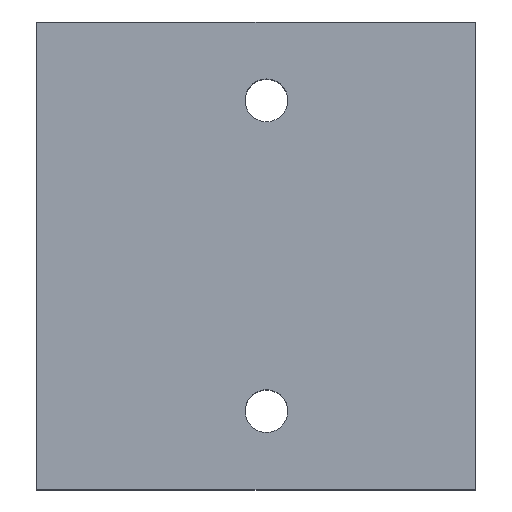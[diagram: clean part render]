
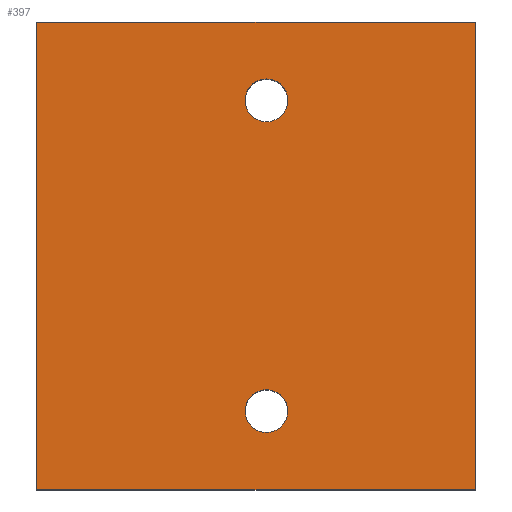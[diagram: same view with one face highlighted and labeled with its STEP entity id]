
A CAD part, top view. The second image highlights one B-rep face of the part: STEP entity #397.
In plain terms, the highlighted planar face has unit normal (0, 0, 1).
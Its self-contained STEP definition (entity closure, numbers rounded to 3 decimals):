
#21 = EDGE_CURVE('',#22,#24,#26,.T.);
#22 = VERTEX_POINT('',#23);
#23 = CARTESIAN_POINT('',(75.,-55.375,13.5));
#24 = VERTEX_POINT('',#25);
#25 = CARTESIAN_POINT('',(75.,-10.625,13.5));
#26 = SURFACE_CURVE('',#27,(#31,#43),.PCURVE_S1.);
#27 = LINE('',#28,#29);
#28 = CARTESIAN_POINT('',(75.,-55.375,13.5));
#29 = VECTOR('',#30,1.);
#30 = DIRECTION('',(0.,1.,0.));
#31 = PCURVE('',#32,#37);
#32 = PLANE('',#33);
#33 = AXIS2_PLACEMENT_3D('',#34,#35,#36);
#34 = CARTESIAN_POINT('',(75.,-55.375,-13.5));
#35 = DIRECTION('',(1.,0.,0.));
#36 = DIRECTION('',(0.,0.,1.));
#37 = DEFINITIONAL_REPRESENTATION('',(#38),#42);
#38 = LINE('',#39,#40);
#39 = CARTESIAN_POINT('',(27.,0.));
#40 = VECTOR('',#41,1.);
#41 = DIRECTION('',(0.,-1.));
#42 = ( GEOMETRIC_REPRESENTATION_CONTEXT(2) 
PARAMETRIC_REPRESENTATION_CONTEXT() REPRESENTATION_CONTEXT('2D SPACE',''
  ) );
#43 = PCURVE('',#44,#49);
#44 = PLANE('',#45);
#45 = AXIS2_PLACEMENT_3D('',#46,#47,#48);
#46 = CARTESIAN_POINT('',(75.,-55.375,13.5));
#47 = DIRECTION('',(0.,0.,1.));
#48 = DIRECTION('',(1.,0.,0.));
#49 = DEFINITIONAL_REPRESENTATION('',(#50),#54);
#50 = LINE('',#51,#52);
#51 = CARTESIAN_POINT('',(0.,0.));
#52 = VECTOR('',#53,1.);
#53 = DIRECTION('',(0.,1.));
#54 = ( GEOMETRIC_REPRESENTATION_CONTEXT(2) 
PARAMETRIC_REPRESENTATION_CONTEXT() REPRESENTATION_CONTEXT('2D SPACE',''
  ) );
#72 = PLANE('',#73);
#73 = AXIS2_PLACEMENT_3D('',#74,#75,#76);
#74 = CARTESIAN_POINT('',(75.,-55.375,-13.5));
#75 = DIRECTION('',(0.,1.,0.));
#76 = DIRECTION('',(0.,0.,1.));
#126 = PLANE('',#127);
#127 = AXIS2_PLACEMENT_3D('',#128,#129,#130);
#128 = CARTESIAN_POINT('',(75.,-10.625,9.6));
#129 = DIRECTION('',(0.,1.,0.));
#130 = DIRECTION('',(0.,0.,1.));
#397 = ADVANCED_FACE('',(#398,#473,#508),#44,.T.);
#398 = FACE_BOUND('',#399,.T.);
#399 = EDGE_LOOP('',(#400,#401,#424,#452));
#400 = ORIENTED_EDGE('',*,*,#21,.F.);
#401 = ORIENTED_EDGE('',*,*,#402,.T.);
#402 = EDGE_CURVE('',#22,#403,#405,.T.);
#403 = VERTEX_POINT('',#404);
#404 = CARTESIAN_POINT('',(117.,-55.375,13.5));
#405 = SURFACE_CURVE('',#406,(#410,#417),.PCURVE_S1.);
#406 = LINE('',#407,#408);
#407 = CARTESIAN_POINT('',(75.,-55.375,13.5));
#408 = VECTOR('',#409,1.);
#409 = DIRECTION('',(1.,0.,0.));
#410 = PCURVE('',#44,#411);
#411 = DEFINITIONAL_REPRESENTATION('',(#412),#416);
#412 = LINE('',#413,#414);
#413 = CARTESIAN_POINT('',(0.,0.));
#414 = VECTOR('',#415,1.);
#415 = DIRECTION('',(1.,0.));
#416 = ( GEOMETRIC_REPRESENTATION_CONTEXT(2) 
PARAMETRIC_REPRESENTATION_CONTEXT() REPRESENTATION_CONTEXT('2D SPACE',''
  ) );
#417 = PCURVE('',#72,#418);
#418 = DEFINITIONAL_REPRESENTATION('',(#419),#423);
#419 = LINE('',#420,#421);
#420 = CARTESIAN_POINT('',(27.,0.));
#421 = VECTOR('',#422,1.);
#422 = DIRECTION('',(0.,1.));
#423 = ( GEOMETRIC_REPRESENTATION_CONTEXT(2) 
PARAMETRIC_REPRESENTATION_CONTEXT() REPRESENTATION_CONTEXT('2D SPACE',''
  ) );
#424 = ORIENTED_EDGE('',*,*,#425,.T.);
#425 = EDGE_CURVE('',#403,#426,#428,.T.);
#426 = VERTEX_POINT('',#427);
#427 = CARTESIAN_POINT('',(117.,-10.625,13.5));
#428 = SURFACE_CURVE('',#429,(#433,#440),.PCURVE_S1.);
#429 = LINE('',#430,#431);
#430 = CARTESIAN_POINT('',(117.,-55.375,13.5));
#431 = VECTOR('',#432,1.);
#432 = DIRECTION('',(0.,1.,0.));
#433 = PCURVE('',#44,#434);
#434 = DEFINITIONAL_REPRESENTATION('',(#435),#439);
#435 = LINE('',#436,#437);
#436 = CARTESIAN_POINT('',(42.,0.));
#437 = VECTOR('',#438,1.);
#438 = DIRECTION('',(0.,1.));
#439 = ( GEOMETRIC_REPRESENTATION_CONTEXT(2) 
PARAMETRIC_REPRESENTATION_CONTEXT() REPRESENTATION_CONTEXT('2D SPACE',''
  ) );
#440 = PCURVE('',#441,#446);
#441 = PLANE('',#442);
#442 = AXIS2_PLACEMENT_3D('',#443,#444,#445);
#443 = CARTESIAN_POINT('',(117.,-55.375,9.6));
#444 = DIRECTION('',(1.,0.,0.));
#445 = DIRECTION('',(0.,0.,1.));
#446 = DEFINITIONAL_REPRESENTATION('',(#447),#451);
#447 = LINE('',#448,#449);
#448 = CARTESIAN_POINT('',(3.9,0.));
#449 = VECTOR('',#450,1.);
#450 = DIRECTION('',(0.,-1.));
#451 = ( GEOMETRIC_REPRESENTATION_CONTEXT(2) 
PARAMETRIC_REPRESENTATION_CONTEXT() REPRESENTATION_CONTEXT('2D SPACE',''
  ) );
#452 = ORIENTED_EDGE('',*,*,#453,.T.);
#453 = EDGE_CURVE('',#426,#24,#454,.T.);
#454 = SURFACE_CURVE('',#455,(#459,#466),.PCURVE_S1.);
#455 = LINE('',#456,#457);
#456 = CARTESIAN_POINT('',(117.,-10.625,13.5));
#457 = VECTOR('',#458,1.);
#458 = DIRECTION('',(-1.,0.,0.));
#459 = PCURVE('',#44,#460);
#460 = DEFINITIONAL_REPRESENTATION('',(#461),#465);
#461 = LINE('',#462,#463);
#462 = CARTESIAN_POINT('',(42.,44.75));
#463 = VECTOR('',#464,1.);
#464 = DIRECTION('',(-1.,0.));
#465 = ( GEOMETRIC_REPRESENTATION_CONTEXT(2) 
PARAMETRIC_REPRESENTATION_CONTEXT() REPRESENTATION_CONTEXT('2D SPACE',''
  ) );
#466 = PCURVE('',#126,#467);
#467 = DEFINITIONAL_REPRESENTATION('',(#468),#472);
#468 = LINE('',#469,#470);
#469 = CARTESIAN_POINT('',(3.9,42.));
#470 = VECTOR('',#471,1.);
#471 = DIRECTION('',(0.,-1.));
#472 = ( GEOMETRIC_REPRESENTATION_CONTEXT(2) 
PARAMETRIC_REPRESENTATION_CONTEXT() REPRESENTATION_CONTEXT('2D SPACE',''
  ) );
#473 = FACE_BOUND('',#474,.T.);
#474 = EDGE_LOOP('',(#475));
#475 = ORIENTED_EDGE('',*,*,#476,.T.);
#476 = EDGE_CURVE('',#477,#477,#479,.T.);
#477 = VERTEX_POINT('',#478);
#478 = CARTESIAN_POINT('',(97.,-45.825,13.5));
#479 = SURFACE_CURVE('',#480,(#485,#496),.PCURVE_S1.);
#480 = CIRCLE('',#481,2.05);
#481 = AXIS2_PLACEMENT_3D('',#482,#483,#484);
#482 = CARTESIAN_POINT('',(97.,-47.875,13.5));
#483 = DIRECTION('',(-0.,0.,-1.));
#484 = DIRECTION('',(0.,1.,0.));
#485 = PCURVE('',#44,#486);
#486 = DEFINITIONAL_REPRESENTATION('',(#487),#495);
#487 = ( BOUNDED_CURVE() B_SPLINE_CURVE(2,(#488,#489,#490,#491,#492,#493
,#494),.UNSPECIFIED.,.T.,.F.) B_SPLINE_CURVE_WITH_KNOTS((1,2,2,2,2,1),(
    -2.094,0.,2.094,4.189,6.283,
8.378),.UNSPECIFIED.) CURVE() GEOMETRIC_REPRESENTATION_ITEM() 
RATIONAL_B_SPLINE_CURVE((1.,0.5,1.,0.5,1.,0.5,1.)) REPRESENTATION_ITEM(
  '') );
#488 = CARTESIAN_POINT('',(22.,9.55));
#489 = CARTESIAN_POINT('',(25.551,9.55));
#490 = CARTESIAN_POINT('',(23.775,6.475));
#491 = CARTESIAN_POINT('',(22.,3.4));
#492 = CARTESIAN_POINT('',(20.225,6.475));
#493 = CARTESIAN_POINT('',(18.449,9.55));
#494 = CARTESIAN_POINT('',(22.,9.55));
#495 = ( GEOMETRIC_REPRESENTATION_CONTEXT(2) 
PARAMETRIC_REPRESENTATION_CONTEXT() REPRESENTATION_CONTEXT('2D SPACE',''
  ) );
#496 = PCURVE('',#497,#502);
#497 = CYLINDRICAL_SURFACE('',#498,2.05);
#498 = AXIS2_PLACEMENT_3D('',#499,#500,#501);
#499 = CARTESIAN_POINT('',(97.,-47.875,-15.));
#500 = DIRECTION('',(-0.,0.,-1.));
#501 = DIRECTION('',(0.,1.,0.));
#502 = DEFINITIONAL_REPRESENTATION('',(#503),#507);
#503 = LINE('',#504,#505);
#504 = CARTESIAN_POINT('',(-6.283,-28.5));
#505 = VECTOR('',#506,1.);
#506 = DIRECTION('',(1.,-0.));
#507 = ( GEOMETRIC_REPRESENTATION_CONTEXT(2) 
PARAMETRIC_REPRESENTATION_CONTEXT() REPRESENTATION_CONTEXT('2D SPACE',''
  ) );
#508 = FACE_BOUND('',#509,.T.);
#509 = EDGE_LOOP('',(#510));
#510 = ORIENTED_EDGE('',*,*,#511,.T.);
#511 = EDGE_CURVE('',#512,#512,#514,.T.);
#512 = VERTEX_POINT('',#513);
#513 = CARTESIAN_POINT('',(97.,-16.075,13.5));
#514 = SURFACE_CURVE('',#515,(#520,#531),.PCURVE_S1.);
#515 = CIRCLE('',#516,2.05);
#516 = AXIS2_PLACEMENT_3D('',#517,#518,#519);
#517 = CARTESIAN_POINT('',(97.,-18.125,13.5));
#518 = DIRECTION('',(-0.,0.,-1.));
#519 = DIRECTION('',(0.,1.,0.));
#520 = PCURVE('',#44,#521);
#521 = DEFINITIONAL_REPRESENTATION('',(#522),#530);
#522 = ( BOUNDED_CURVE() B_SPLINE_CURVE(2,(#523,#524,#525,#526,#527,#528
,#529),.UNSPECIFIED.,.T.,.F.) B_SPLINE_CURVE_WITH_KNOTS((1,2,2,2,2,1),(
    -2.094,0.,2.094,4.189,6.283,
8.378),.UNSPECIFIED.) CURVE() GEOMETRIC_REPRESENTATION_ITEM() 
RATIONAL_B_SPLINE_CURVE((1.,0.5,1.,0.5,1.,0.5,1.)) REPRESENTATION_ITEM(
  '') );
#523 = CARTESIAN_POINT('',(22.,39.3));
#524 = CARTESIAN_POINT('',(25.551,39.3));
#525 = CARTESIAN_POINT('',(23.775,36.225));
#526 = CARTESIAN_POINT('',(22.,33.15));
#527 = CARTESIAN_POINT('',(20.225,36.225));
#528 = CARTESIAN_POINT('',(18.449,39.3));
#529 = CARTESIAN_POINT('',(22.,39.3));
#530 = ( GEOMETRIC_REPRESENTATION_CONTEXT(2) 
PARAMETRIC_REPRESENTATION_CONTEXT() REPRESENTATION_CONTEXT('2D SPACE',''
  ) );
#531 = PCURVE('',#532,#537);
#532 = CYLINDRICAL_SURFACE('',#533,2.05);
#533 = AXIS2_PLACEMENT_3D('',#534,#535,#536);
#534 = CARTESIAN_POINT('',(97.,-18.125,-15.));
#535 = DIRECTION('',(-0.,0.,-1.));
#536 = DIRECTION('',(0.,1.,0.));
#537 = DEFINITIONAL_REPRESENTATION('',(#538),#542);
#538 = LINE('',#539,#540);
#539 = CARTESIAN_POINT('',(-6.283,-28.5));
#540 = VECTOR('',#541,1.);
#541 = DIRECTION('',(1.,-0.));
#542 = ( GEOMETRIC_REPRESENTATION_CONTEXT(2) 
PARAMETRIC_REPRESENTATION_CONTEXT() REPRESENTATION_CONTEXT('2D SPACE',''
  ) );
